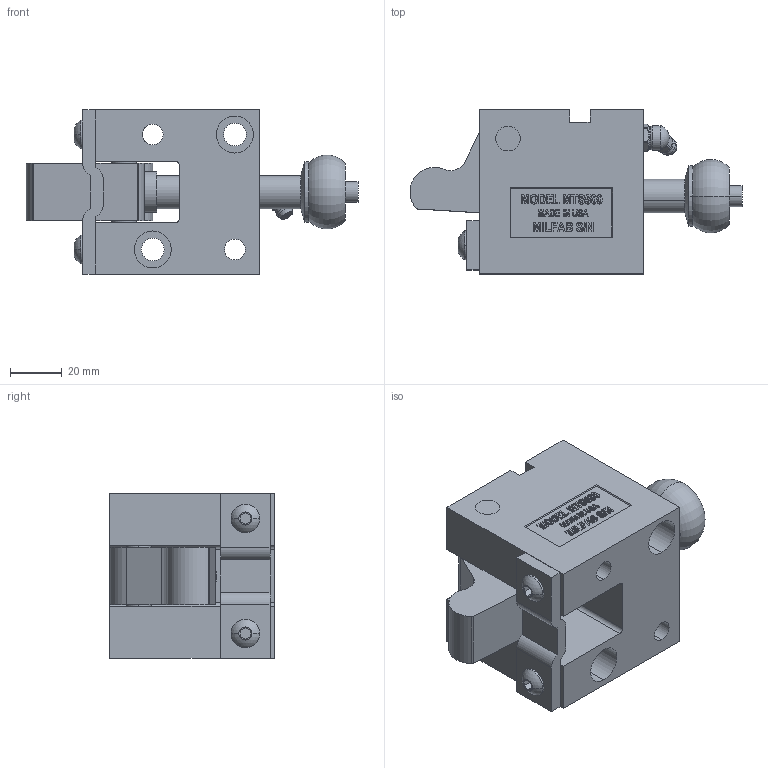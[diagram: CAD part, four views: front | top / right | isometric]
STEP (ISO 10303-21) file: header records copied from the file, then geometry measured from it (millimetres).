
FILE_DESCRIPTION (( 'STEP AP214' ), '1' );
FILE_NAME ('MTS50045-C.STEP', '2014-01-07T23:17:28', ( 'user' ), ( '' ), 'SwSTEP 2.0', 'SolidWorks 2009', '' );
FILE_SCHEMA (( 'AUTOMOTIVE_DESIGN' ));
Length unit declared in the file: inch
Products named in the file (11): M-I-500-POINT; 500-I-STRAP; 500 PIVOT PIN; 500 STRIPPER CLOSED; 1-4 SCREW; GREASE ZERK; 500-OFFSET TRIGGER; MTS50045-C; 500-WASHER; MS500-PUNCH; MTS500-BODY
Assembly tree (11 placements, depth 2):
  MTS50045-C
    MS500-PUNCH
    1-4 SCREW  x2
    500-I-STRAP
    M-I-500-POINT
    500-OFFSET TRIGGER
    500 PIVOT PIN
    500 STRIPPER CLOSED
    500-WASHER
    MTS500-BODY
    GREASE ZERK
Bounding box: 128.38 x 63.5 x 63.5 mm (x, y, z)
Volume: 229271.1 mm3; surface area: 57780 mm2
Topology: 11 solids, 11 shells, 588 faces, 1517 edges, 996 vertices
Faces by surface type: plane 343, bspline 99, cylinder 90, cone 30, torus 22, sphere 4
Entity records: 23778 total; most frequent: CARTESIAN_POINT 9979, ORIENTED_EDGE 2946, DIRECTION 2377, EDGE_CURVE 1473, VECTOR 971, LINE 971, VERTEX_POINT 970, AXIS2_PLACEMENT_3D 703
